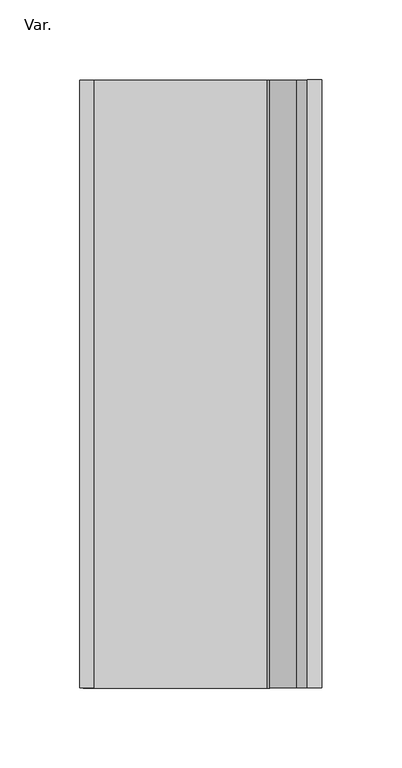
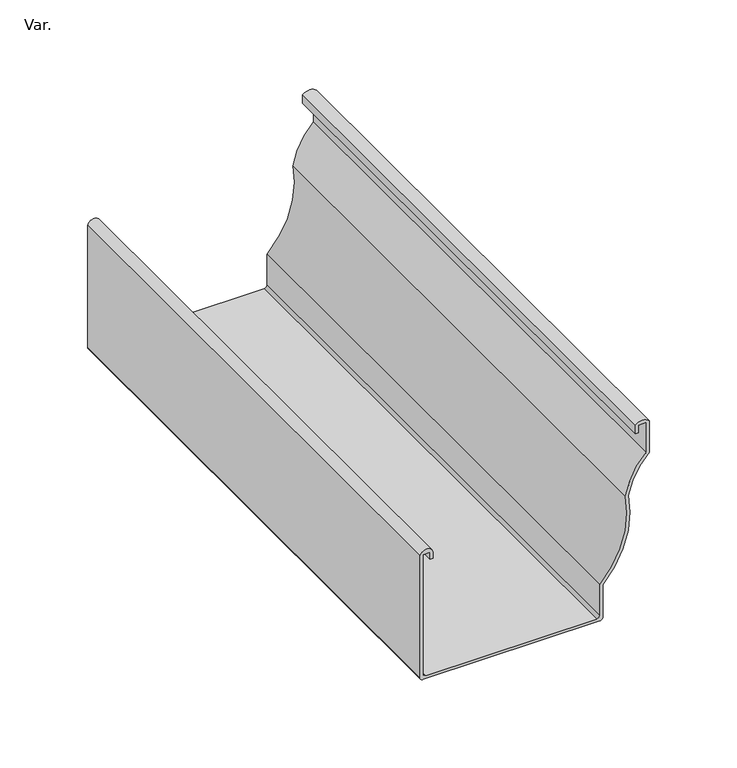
"""IFC4 building model written with IfcOpenShell, lengths in millimetres: pipe fitting geometry, AmancoWavin_Unionesdetubería_CanalesyBajantesZ_NoUsarCanoaColonial : Var.."""

from ifc_helpers import new_model, si_unit, point, frame, frame_2d, origin, place, context, project, spatial, polyline, circle_curve, trimmed, segment, composite_curve, outline, extrude, source, transform, mapped, element, save


def var_6b6f87d7(model_context):
    return source(origin(), model_context, "Body", "SweptSolid", [
        extrude(outline(composite_curve([segment(polyline([(3.96, -73.62), (87.0235329, -73.62), (87.0235329, -68.9), (82.2, -68.9), (82.2, -66.88), (86.7908833, -66.88)]), True, "CONTINUOUS"), segment(trimmed(circle_curve(frame_2d((85.4336297, -71.24)), 4.5663703), [point((86.7908833, -66.88))], [point((86.7908833, -75.6))], False, "CARTESIAN"), True, "CONTINUOUS"), segment(polyline([(86.7908833, -75.6), (1.98, -75.6)]), True, "CONTINUOUS"), segment(trimmed(circle_curve(frame_2d((1.98, -73.62)), 1.98), [point((1.98, -75.6))], [point((0.0, -73.62))], False, "CARTESIAN"), True, "CONTINUOUS"), segment(polyline([(0.0, -73.62), (0.0, 43.02)]), True, "CONTINUOUS"), segment(trimmed(circle_curve(frame_2d((1.98, 43.02)), 1.98), [point((0.0, 43.02))], [point((1.98, 45.0))], False, "CARTESIAN"), True, "CONTINUOUS"), segment(polyline([(1.98, 45.0), (24.428298, 45.0)]), True, "CONTINUOUS"), segment(trimmed(circle_curve(frame_2d((69.4907783, -2.2247036)), 65.2748019), [point((24.428298, 45.0))], [point((81.1170628, 62.006358))], False, "CARTESIAN"), True, "CONTINUOUS"), segment(trimmed(circle_curve(frame_2d((72.4461628, 107.8560782)), 46.6624191), [point((81.1170628, 62.006358))], [point((106.1645075, 75.6))], True, "CARTESIAN"), True, "CONTINUOUS"), segment(polyline([(106.1645075, 75.6), (128.1558419, 75.6)]), True, "CONTINUOUS"), segment(trimmed(circle_curve(frame_2d((123.4402264, 71.04)), 6.5597736), [point((128.1558419, 75.6))], [point((128.1558419, 66.48))], False, "CARTESIAN"), True, "CONTINUOUS"), segment(polyline([(128.1558419, 66.48), (122.2, 66.48), (122.2, 68.5), (127.6251189, 68.5), (127.6251189, 73.62), (107.0001189, 73.62)]), True, "CONTINUOUS"), segment(trimmed(circle_curve(frame_2d((72.4461628, 107.8560782)), 48.6424191), [point((107.0001189, 73.62))], [point((81.1107714, 59.9915873))], False, "CARTESIAN"), True, "CONTINUOUS"), segment(trimmed(circle_curve(frame_2d((69.4907783, -2.2247036)), 63.2921092), [point((81.1107714, 59.9915873))], [point((25.2323567, 43.02))], True, "CARTESIAN"), True, "CONTINUOUS"), segment(polyline([(25.2323567, 43.02), (3.96, 43.02)]), True, "CONTINUOUS"), segment(trimmed(circle_curve(frame_2d((3.96, 41.04)), 1.98), [point((3.96, 43.02))], [point((1.98, 41.04))], True, "CARTESIAN"), True, "CONTINUOUS"), segment(polyline([(1.98, 41.04), (1.98, -71.64)]), True, "CONTINUOUS"), segment(trimmed(circle_curve(frame_2d((3.96, -71.64)), 1.98), [point((1.98, -71.64))], [point((3.96, -73.62))], True, "CARTESIAN"), True, "CONTINUOUS")], self_intersect=False)), frame((0.0, 0.0, 0.0), z_axis=(0.0, 1.0, 0.0), x_axis=(0.0, 0.0, 1.0)), (0.0, 0.0, 1.0), 380.0),
    ])


if __name__ == "__main__":
    model = new_model("IFC4")
    model_context = context("Model", 3, world=origin())
    ifc_project = project(units=[si_unit("LENGTHUNIT", "METRE", prefix="MILLI")], contexts=[model_context])
    site = spatial("IfcSite", under=ifc_project)
    building = spatial("IfcBuilding", under=site)
    placement = place(None, origin())
    var_shape = var_6b6f87d7(model_context)
    element("IfcPipeFitting", 1, ObjectType="AmancoWavin_Unionesdetubería_CanalesyBajantesZ_NoUsarCanoaColonial : Var.", at=placement, inside=building, context=model_context, shape_type="MappedRepresentation", body=[
        mapped(var_shape, transform((0.0, 0.0, 0.0), x_axis=(1.0, 0.0, 0.0), y_axis=(0.0, 1.0, 0.0), z_axis=(0.0, 0.0, 1.0))),
    ])
    save(model, "model.ifc")
